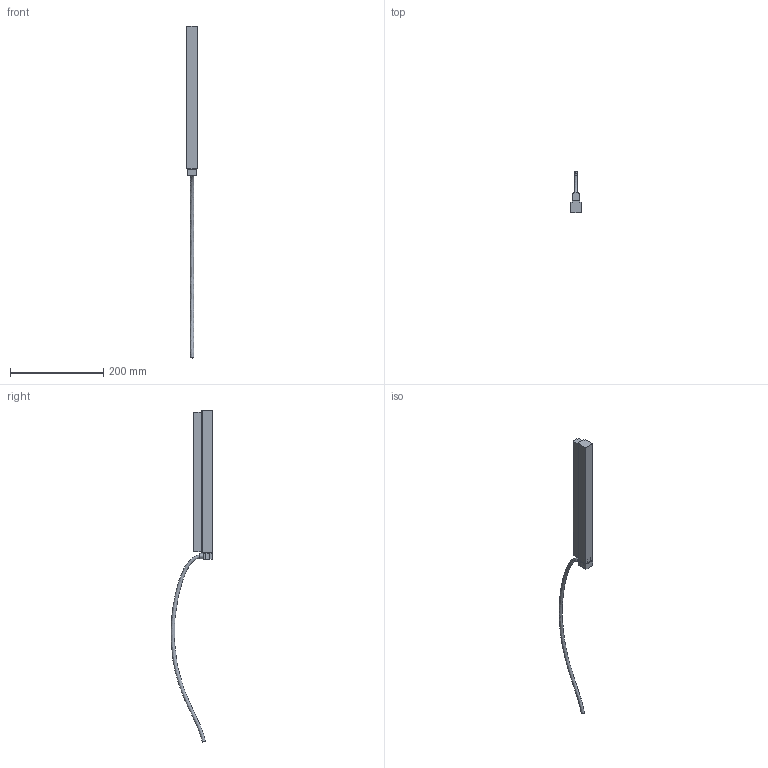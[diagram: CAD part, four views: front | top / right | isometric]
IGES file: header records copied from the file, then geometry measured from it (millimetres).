
Start section: SolidWorks IGES file using analytic representation for surfaces
Global section: file name: X:\PRODUKT\Modele 3D_WWW\_KOLEKCJE WWW\_LVM\LVM-48V-150W-INSIDE-POWER-SUPPLY-10161\LVM-48V-150W-INSIDE-POWER-SUPPLY-10161.IGS; native system: SolidWorks 2021; preprocessor: SolidWorks 2021; author: gabriela.tworek; date: 220516.105530; units: millimetre
Bounding box: 22 x 89.8 x 710.26 mm (x, y, z)
Surface area: 62550.3 mm2 (no closed solid volume)
Topology: 0 solids, 0 shells, 50 faces, 233 edges, 232 vertices
Faces by surface type: bspline 41, revolution 9
